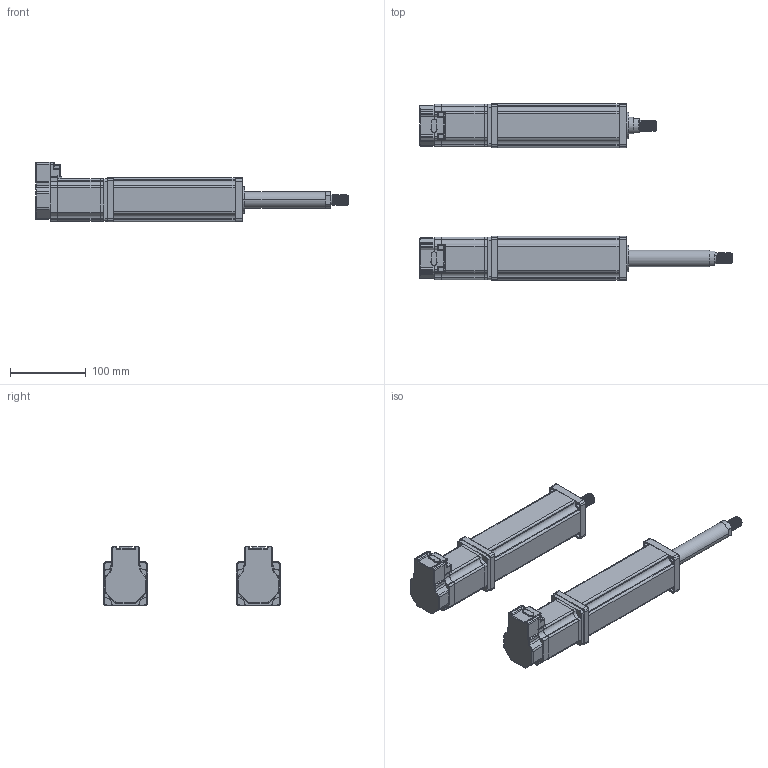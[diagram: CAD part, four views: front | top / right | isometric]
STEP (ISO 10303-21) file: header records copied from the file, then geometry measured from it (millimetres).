
FILE_DESCRIPTION(('STEP AP214'),'1');
FILE_NAME('\Tsurumi-main\3d_dad2\Servo_Motor\tmp0.STEP',' ',(' '),(' '),'XStep 1.0',' ',' ');
FILE_SCHEMA(('automotive_design'));
Length unit declared in the file: millimetre
Bounding box: 412.5 x 233.23 x 79 mm (x, y, z)
Volume: 1697719.6 mm3; surface area: 250610.3 mm2
Topology: 44 solids, 44 shells, 1340 faces, 3574 edges, 2326 vertices
Faces by surface type: plane 762, cylinder 470, bspline 60, torus 36, sphere 8, cone 4
Entity records: 92343 total; most frequent: CARTESIAN_POINT 46816, ORIENTED_EDGE 7116, DIRECTION 7036, EDGE_CURVE 3558, LINE 2460, VECTOR 2460, VERTEX_POINT 2326, AXIS2_PLACEMENT_3D 2288
